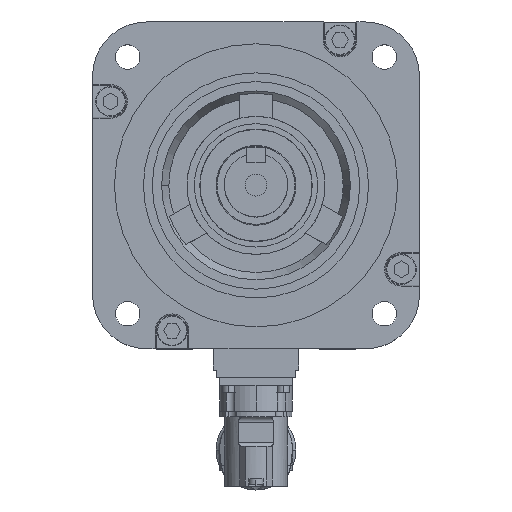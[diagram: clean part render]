
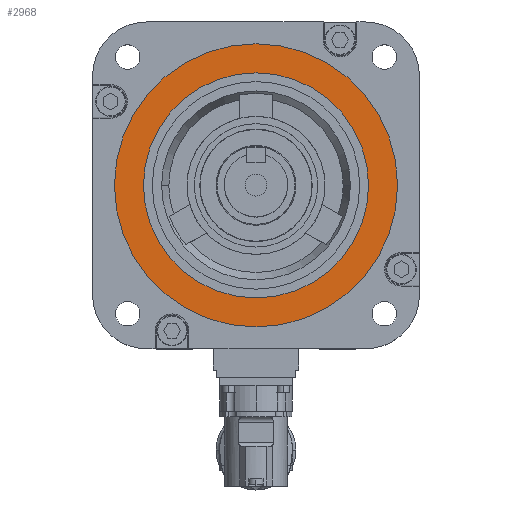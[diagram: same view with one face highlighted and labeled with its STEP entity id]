
A CAD part, top view. The second image highlights one B-rep face of the part: STEP entity #2968.
In plain terms, the highlighted planar face has unit normal (0, 0, 1).
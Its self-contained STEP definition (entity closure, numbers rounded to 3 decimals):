
#2789 = ORIENTED_EDGE ( 'NONE', *, *, #23382, .F. ) ;
#2920 = ORIENTED_EDGE ( 'NONE', *, *, #2926, .F. ) ;
#2923 = EDGE_LOOP ( 'NONE', ( #2920, #2789 ) ) ;
#2926 = EDGE_CURVE ( 'NONE', #23558, #24405, #33352, .T. ) ;
#2933 = ORIENTED_EDGE ( 'NONE', *, *, #35799, .T. ) ;
#2938 = EDGE_CURVE ( 'NONE', #35786, #35787, #33385, .T. ) ;
#2943 = ORIENTED_EDGE ( 'NONE', *, *, #2938, .T. ) ;
#2951 = EDGE_LOOP ( 'NONE', ( #2943, #2933 ) ) ;
#2968 = ADVANCED_FACE ( 'NONE', ( #33402, #33396 ), #33395, .T. ) ;
#10730 = DIRECTION ( 'NONE',  ( 1., 0., 0. ) ) ;
#10731 = DIRECTION ( 'NONE',  ( 0., 0., 1. ) ) ;
#10732 = CARTESIAN_POINT ( 'NONE',  ( 0., 0., -0.5 ) ) ;
#10733 = AXIS2_PLACEMENT_3D ( 'NONE', #10732, #10731, #10730 ) ;
#10734 = CIRCLE ( 'NONE', #10733, 62. ) ;
#11027 = CARTESIAN_POINT ( 'NONE',  ( -62., 0., -0.5 ) ) ;
#12224 = CARTESIAN_POINT ( 'NONE',  ( 62., 0., -0.5 ) ) ;
#17747 = CARTESIAN_POINT ( 'NONE',  ( -78., 0., -0.5 ) ) ;
#17748 = CARTESIAN_POINT ( 'NONE',  ( 78., 0., -0.5 ) ) ;
#17837 = DIRECTION ( 'NONE',  ( 1., 0., 0. ) ) ;
#17838 = DIRECTION ( 'NONE',  ( 0., 0., 1. ) ) ;
#17839 = CARTESIAN_POINT ( 'NONE',  ( 0., 0., -0.5 ) ) ;
#17840 = AXIS2_PLACEMENT_3D ( 'NONE', #17839, #17838, #17837 ) ;
#17841 = CIRCLE ( 'NONE', #17840, 78. ) ;
#23382 = EDGE_CURVE ( 'NONE', #24405, #23558, #10734, .T. ) ;
#23558 = VERTEX_POINT ( 'NONE', #11027 ) ;
#24405 = VERTEX_POINT ( 'NONE', #12224 ) ;
#33344 = DIRECTION ( 'NONE',  ( 1., 0., 0. ) ) ;
#33345 = DIRECTION ( 'NONE',  ( 0., 0., 1. ) ) ;
#33346 = CARTESIAN_POINT ( 'NONE',  ( 0., 0., -0.5 ) ) ;
#33347 = AXIS2_PLACEMENT_3D ( 'NONE', #33346, #33345, #33344 ) ;
#33352 = CIRCLE ( 'NONE', #33347, 62. ) ;
#33381 = DIRECTION ( 'NONE',  ( 1., 0., 0. ) ) ;
#33382 = DIRECTION ( 'NONE',  ( 0., 0., 1. ) ) ;
#33383 = CARTESIAN_POINT ( 'NONE',  ( 0., 0., -0.5 ) ) ;
#33384 = AXIS2_PLACEMENT_3D ( 'NONE', #33383, #33382, #33381 ) ;
#33385 = CIRCLE ( 'NONE', #33384, 78. ) ;
#33391 = DIRECTION ( 'NONE',  ( 1., 0., 0. ) ) ;
#33392 = DIRECTION ( 'NONE',  ( 0., 0., 1. ) ) ;
#33393 = CARTESIAN_POINT ( 'NONE',  ( 0., 0., -0.5 ) ) ;
#33394 = AXIS2_PLACEMENT_3D ( 'NONE', #33393, #33392, #33391 ) ;
#33395 = PLANE ( 'NONE',  #33394 ) ;
#33396 = FACE_BOUND ( 'NONE', #2923, .T. ) ;
#33402 = FACE_OUTER_BOUND ( 'NONE', #2951, .T. ) ;
#35786 = VERTEX_POINT ( 'NONE', #17748 ) ;
#35787 = VERTEX_POINT ( 'NONE', #17747 ) ;
#35799 = EDGE_CURVE ( 'NONE', #35787, #35786, #17841, .T. ) ;
